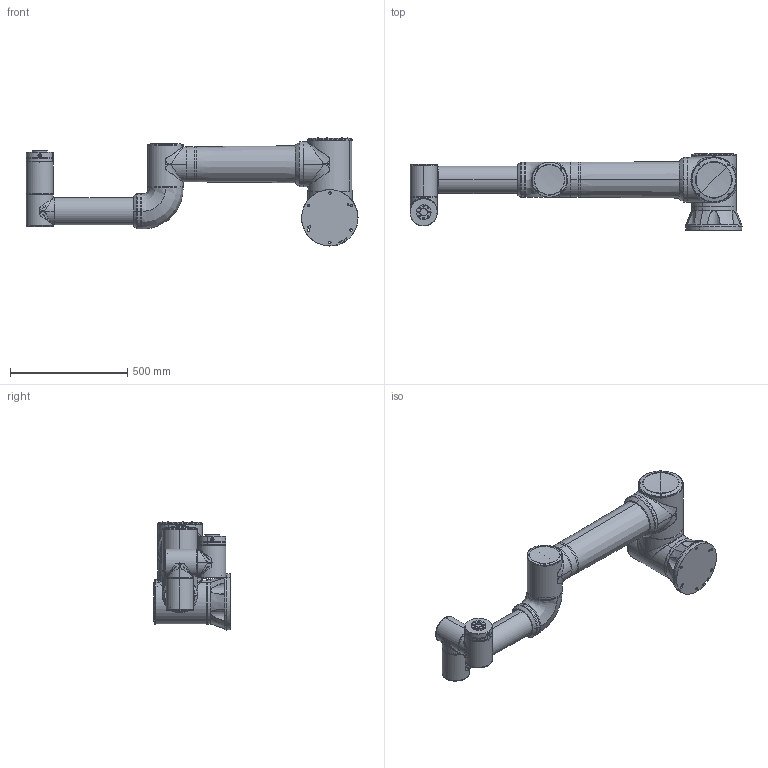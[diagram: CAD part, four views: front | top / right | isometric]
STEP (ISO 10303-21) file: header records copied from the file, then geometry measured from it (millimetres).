
FILE_DESCRIPTION (( 'STEP AP203' ), '1' );
FILE_NAME ('RD20-FR30-V6.0-Èí¼þÄ£ÐÍ.STEP', '2024-11-14T11:09:08', ( '' ), ( '' ), 'SwSTEP 2.0', 'SolidWorks 2018', '' );
FILE_SCHEMA (( 'CONFIG_CONTROL_DESIGN' ));
Length unit declared in the file: millimetre
Products named in the file (8): RD20-FR30-V6.0-3; RD20-FR30-V6.0-软件模型; RD20-FR30-V6.0-2; RD20-FR30-V6.0-1; RD20-FR30-V6.0-4; RD20-FR30-V6.0-6; RD20-FR30-V6.0-5; RD20-FR30-V6.0-7
Assembly tree (7 placements, depth 2):
  RD20-FR30-V6.0-软件模型
    RD20-FR30-V6.0-1
    RD20-FR30-V6.0-2
    RD20-FR30-V6.0-3
    RD20-FR30-V6.0-4
    RD20-FR30-V6.0-5
    RD20-FR30-V6.0-6
    RD20-FR30-V6.0-7
Bounding box: 1414 x 327 x 459.99 mm (x, y, z)
Volume: 43891728.9 mm3; surface area: 1982899.5 mm2
Topology: 59 solids, 84 shells, 1768 faces, 3944 edges, 2533 vertices
Faces by surface type: plane 715, cylinder 557, bspline 279, cone 201, torus 16
Entity records: 171179 total; most frequent: CARTESIAN_POINT 132847, ORIENTED_EDGE 7884, DIRECTION 7252, EDGE_CURVE 3942, AXIS2_PLACEMENT_3D 2865, VERTEX_POINT 2533, EDGE_LOOP 2043, ADVANCED_FACE 1768
